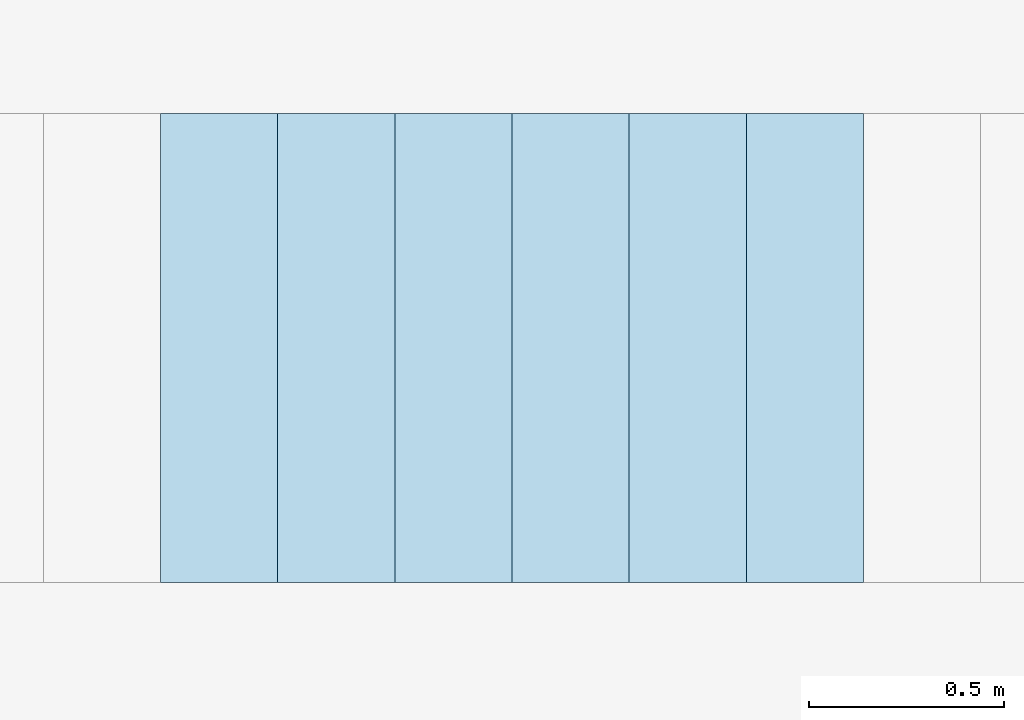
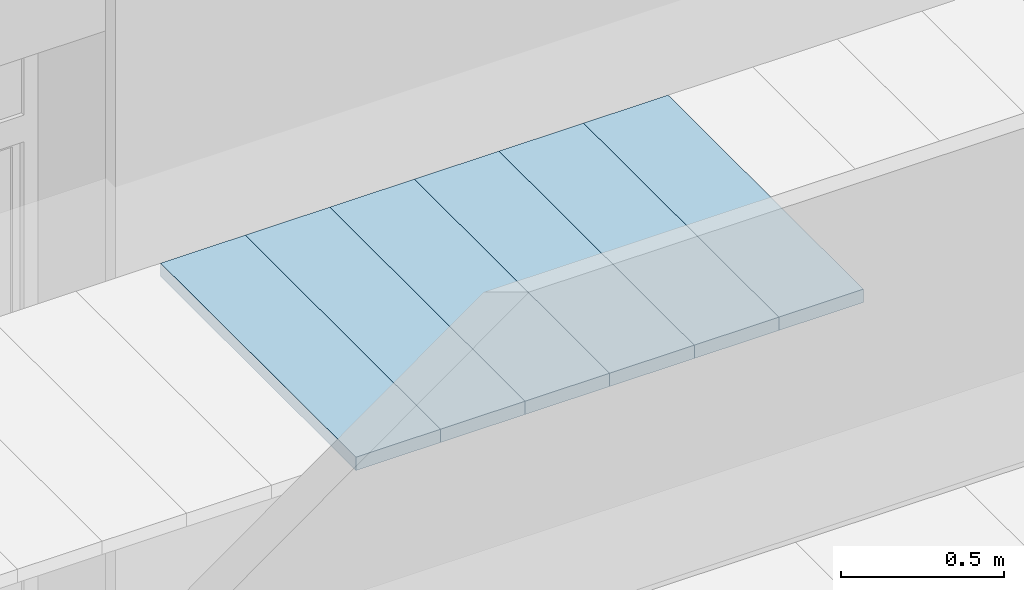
# One storey, part 8 of 68: 6 slabs.
"""IFC2X3 building model written with IfcOpenShell, lengths in millimetres."""

from ifc_helpers import new_model, entity, si_unit, converted_unit, derived_unit, money_unit, direction, frame, origin_with_axes, place, context, subcontext, project, spatial, polyline, outline, extrude, material, layer, layer_set, layer_usage, type_object, element, save


model = new_model("IFC2X3")

# Units and contexts
model_context = context("Model", 3, precision=0.01, world=origin_with_axes(), true_north=direction((0.0, 1.0)))
body_context = subcontext(model_context, "Body", "Model", "MODEL_VIEW")
ifc_project = project(units=[si_unit("LENGTHUNIT", "METRE", prefix="MILLI"), si_unit("AREAUNIT", "SQUARE_METRE"), si_unit("VOLUMEUNIT", "CUBIC_METRE"), converted_unit("PLANEANGLEUNIT", "DEGREE", entity("IfcPlaneAngleMeasure", 0.0174532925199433), si_unit("PLANEANGLEUNIT", "RADIAN"), dimensions=[0, 0, 0, 0, 0, 0, 0]), money_unit("USD"), converted_unit("TIMEUNIT", "Year", entity("IfcTimeMeasure", 31557600.0), si_unit("TIMEUNIT", "SECOND"), dimensions=[0, 0, 1, 0, 0, 0, 0]), si_unit("MASSUNIT", "GRAM", prefix="KILO"), si_unit("THERMODYNAMICTEMPERATUREUNIT", "DEGREE_CELSIUS"), si_unit("LUMINOUSINTENSITYUNIT", "LUMEN"), si_unit("ENERGYUNIT", "JOULE", prefix="MEGA"), derived_unit("THERMALCONDUCTANCEUNIT", [(si_unit("POWERUNIT", "WATT"), 1), (si_unit("LENGTHUNIT", "METRE"), -1), (si_unit("THERMODYNAMICTEMPERATUREUNIT", "KELVIN"), -1)]), derived_unit("SPECIFICHEATCAPACITYUNIT", [(si_unit("ENERGYUNIT", "JOULE"), 1), (si_unit("MASSUNIT", "GRAM", prefix="KILO"), -1), (si_unit("THERMODYNAMICTEMPERATUREUNIT", "KELVIN"), -1)]), derived_unit("MASSDENSITYUNIT", [(si_unit("MASSUNIT", "GRAM", prefix="KILO"), 1), (si_unit("VOLUMEUNIT", "CUBIC_METRE"), -1)])], contexts=[model_context])

# Site, building, storey
site_placement = place(None, origin_with_axes())
site = spatial("IfcSite", under=ifc_project, at=site_placement, Name="Sitio", CompositionType="ELEMENT")
building_placement = place(site_placement, origin_with_axes())
building = spatial("IfcBuilding", under=site, at=building_placement, Name="Construcción", CompositionType="ELEMENT")
storey_placement = place(building_placement, origin_with_axes())
storey = spatial("IfcBuildingStorey", under=building, at=storey_placement, Name="PLANTA 1ª", CompositionType="ELEMENT", Elevation=0.0)

# Slabs
ifc_material = material(Name="ARQ_ME126_CelRas_Placa_Metallica")
ifc_layer = layer(ifc_material, 50.0, ventilated="UNKNOWN")
ifc_layer_set = layer_set([ifc_layer], Name="ARQ_ME126_CelRas_Placa_Metallica 50")
ifc_layer_usage_1 = layer_usage(ifc_layer_set, "AXIS3", "NEGATIVE", 50.0)
slab_type = type_object("IfcSlabType", Name="ARQ_ME126_CelRas_Placa_Metallica 50", PredefinedType="NOTDEFINED")
slab_1_placement = place(storey_placement, frame((-25961.6828658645, 3382.153621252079, 2500.0), z_axis=(0.0, 0.0, 1.0), x_axis=(1.0, 0.0, 0.0)))
element("IfcSlab", 1, at=slab_1_placement, inside=storey, type_object=slab_type, material=ifc_layer_usage_1, Name="SLA - 026", PredefinedType="NOTDEFINED", context=body_context, shape_type="SweptSolid", body=[
    extrude(outline(polyline([(0.0, 0.0), (0.0, -1199.999999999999), (299.9999999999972, -1199.999999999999), (299.9999999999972, 0.0), (0.0, 0.0)])), frame((0.0, 0.0, -50.0), z_axis=(0.0, 0.0, 1.0), x_axis=(1.0, 0.0, 0.0)), (0.0, 0.0, 1.0), 50.0),
])
ifc_layer_usage_2 = layer_usage(ifc_layer_set, "AXIS3", "NEGATIVE", 50.0)
slab_2_placement = place(storey_placement, frame((-25661.6828658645, 3382.153621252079, 2500.0), z_axis=(0.0, 0.0, 1.0), x_axis=(1.0, 0.0, 0.0)))
element("IfcSlab", 2, at=slab_2_placement, inside=storey, type_object=slab_type, material=ifc_layer_usage_2, Name="SLA - 026", PredefinedType="NOTDEFINED", context=body_context, shape_type="SweptSolid", body=[
    extrude(outline(polyline([(0.0, 0.0), (0.0, -1199.999999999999), (300.0000000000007, -1199.999999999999), (300.0000000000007, 0.0), (0.0, 0.0)])), frame((0.0, 0.0, -50.0), z_axis=(0.0, 0.0, 1.0), x_axis=(1.0, 0.0, 0.0)), (0.0, 0.0, 1.0), 50.0),
])
ifc_layer_usage_3 = layer_usage(ifc_layer_set, "AXIS3", "NEGATIVE", 50.0)
slab_3_placement = place(storey_placement, frame((-25361.6828658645, 3382.153621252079, 2500.0), z_axis=(0.0, 0.0, 1.0), x_axis=(1.0, 0.0, 0.0)))
element("IfcSlab", 3, at=slab_3_placement, inside=storey, type_object=slab_type, material=ifc_layer_usage_3, Name="SLA - 026", PredefinedType="NOTDEFINED", context=body_context, shape_type="SweptSolid", body=[
    extrude(outline(polyline([(0.0, 0.0), (0.0, -1199.999999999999), (300.0000000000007, -1199.999999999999), (300.0000000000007, 0.0), (0.0, 0.0)])), frame((0.0, 0.0, -50.0), z_axis=(0.0, 0.0, 1.0), x_axis=(1.0, 0.0, 0.0)), (0.0, 0.0, 1.0), 50.0),
])
ifc_layer_usage_4 = layer_usage(ifc_layer_set, "AXIS3", "NEGATIVE", 50.0)
slab_4_placement = place(storey_placement, frame((-25061.6828658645, 3382.153621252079, 2500.0), z_axis=(0.0, 0.0, 1.0), x_axis=(1.0, 0.0, 0.0)))
element("IfcSlab", 4, at=slab_4_placement, inside=storey, type_object=slab_type, material=ifc_layer_usage_4, Name="SLA - 026", PredefinedType="NOTDEFINED", context=body_context, shape_type="SweptSolid", body=[
    extrude(outline(polyline([(0.0, 0.0), (0.0, -1199.999999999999), (300.0000000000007, -1199.999999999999), (300.0000000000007, 0.0), (0.0, 0.0)])), frame((0.0, 0.0, -50.0), z_axis=(0.0, 0.0, 1.0), x_axis=(1.0, 0.0, 0.0)), (0.0, 0.0, 1.0), 50.0),
])
ifc_layer_usage_5 = layer_usage(ifc_layer_set, "AXIS3", "NEGATIVE", 50.0)
slab_5_placement = place(storey_placement, frame((-24761.6828658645, 3382.153621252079, 2500.0), z_axis=(0.0, 0.0, 1.0), x_axis=(1.0, 0.0, 0.0)))
element("IfcSlab", 5, at=slab_5_placement, inside=storey, type_object=slab_type, material=ifc_layer_usage_5, Name="SLA - 026", PredefinedType="NOTDEFINED", context=body_context, shape_type="SweptSolid", body=[
    extrude(outline(polyline([(0.0, 0.0), (0.0, -1199.999999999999), (300.0000000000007, -1199.999999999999), (300.0000000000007, 0.0), (0.0, 0.0)])), frame((0.0, 0.0, -50.0), z_axis=(0.0, 0.0, 1.0), x_axis=(1.0, 0.0, 0.0)), (0.0, 0.0, 1.0), 50.0),
])
ifc_layer_usage_6 = layer_usage(ifc_layer_set, "AXIS3", "NEGATIVE", 50.0)
slab_6_placement = place(storey_placement, frame((-24461.6828658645, 3382.153621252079, 2500.0), z_axis=(0.0, 0.0, 1.0), x_axis=(1.0, 0.0, 0.0)))
element("IfcSlab", 6, at=slab_6_placement, inside=storey, type_object=slab_type, material=ifc_layer_usage_6, Name="SLA - 026", PredefinedType="NOTDEFINED", context=body_context, shape_type="SweptSolid", body=[
    extrude(outline(polyline([(0.0, 0.0), (0.0, -1199.999999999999), (300.0000000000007, -1199.999999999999), (300.0000000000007, 0.0), (0.0, 0.0)])), frame((0.0, 0.0, -50.0), z_axis=(0.0, 0.0, 1.0), x_axis=(1.0, 0.0, 0.0)), (0.0, 0.0, 1.0), 50.0),
])

save(model, "model.ifc")
